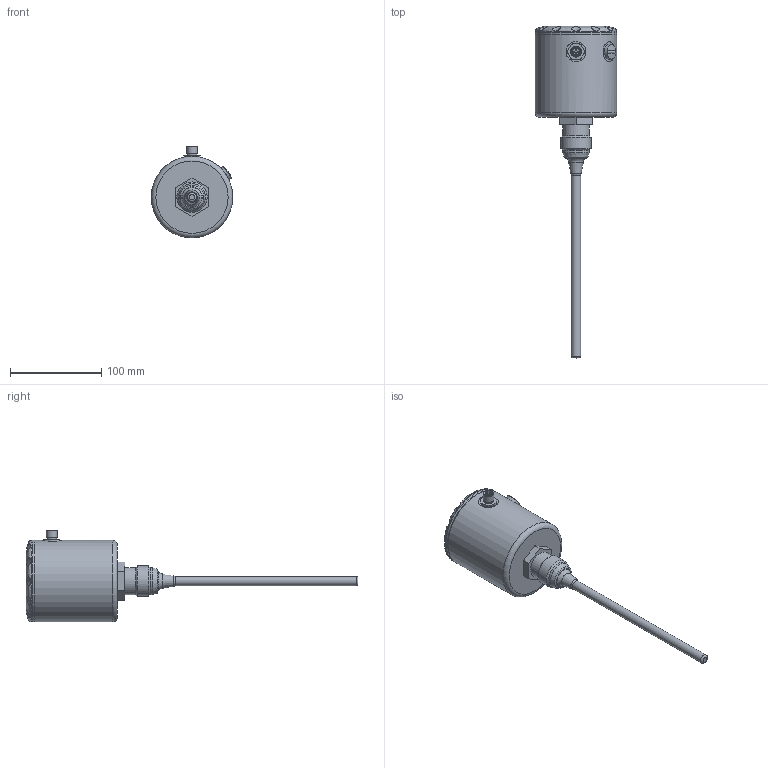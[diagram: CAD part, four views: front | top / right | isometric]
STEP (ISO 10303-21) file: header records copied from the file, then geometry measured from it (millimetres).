
FILE_DESCRIPTION( ( 'Unknown' ), '1' );
FILE_NAME( 'F:/U_Proces/Dokumentation/7000 3D Step filer/7000-/7000084/lsp050.020.2.stp', 'Unknown', ( 'Unknown' ), ( 'Unknown' ), 'PSStep 13.0', 'Unknown', ' ' );
FILE_SCHEMA( ( 'AUTOMOTIVE_DESIGN { 1 0 10303 214 1 1 1 1 }' ) );
Length unit declared in the file: millimetre
Products named in the file (1): HUS
Bounding box: 89 x 362.85 x 100.3 mm (x, y, z)
Surface area: 90642.4 mm2 (no closed solid volume)
Topology: 0 solids, 158 shells, 158 faces, 634 edges, 565 vertices
Faces by surface type: cylinder 55, plane 48, cone 25, torus 20, bspline 6, sphere 4
Full cylindrical faces by diameter (mm): 1.2 x4, 3 x2, 7 x1, 7.709 x1, 10 x3, 10.5 x1, 11.5 x1, 11.741 x1, 11.9 x1, 13.8 x1, 14 x1, 15 x2, 15.8 x1, 16 x1, 19.5 x1, 24.98 x1, 26 x2, 29.5 x2, 33.25 x1, 76 x1, 80 x1, 89 x2
Entity records: 9572 total; most frequent: CARTESIAN_POINT 3843, DIRECTION 984, ORIENTED_EDGE 524, EDGE_CURVE 524, VERTEX_POINT 524, AXIS2_PLACEMENT_3D 439, CIRCLE 286, FACE_BOUND 255
